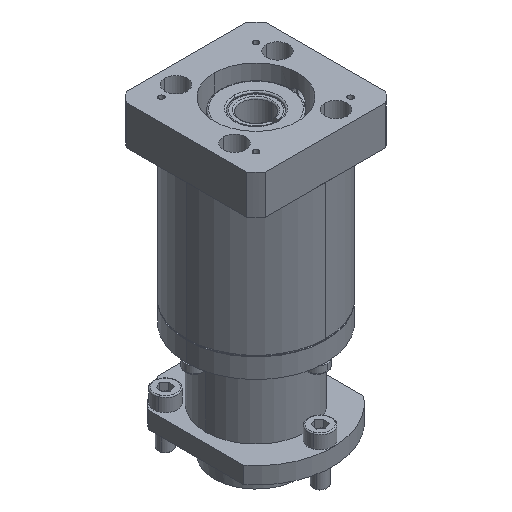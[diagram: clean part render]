
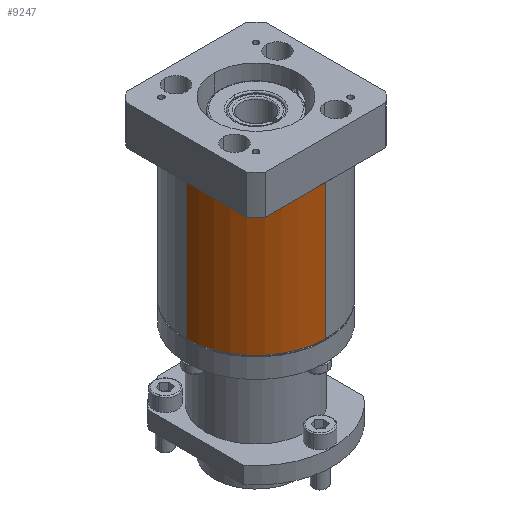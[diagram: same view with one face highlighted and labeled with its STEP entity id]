
A CAD part, isometric view. The second image highlights one B-rep face of the part: STEP entity #9247.
In plain terms, the highlighted cylindrical face has radius 25 mm (diameter 50 mm), a partial arc.
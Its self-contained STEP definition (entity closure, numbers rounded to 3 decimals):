
#436 = EDGE_CURVE ( 'NONE', #11262, #9321, #12147, .T. ) ;
#1629 = CARTESIAN_POINT ( 'NONE',  ( 0., -25., 119.5 ) ) ;
#1720 = ORIENTED_EDGE ( 'NONE', *, *, #12860, .T. ) ;
#1755 = CARTESIAN_POINT ( 'NONE',  ( 0., -25., 71. ) ) ;
#2228 = EDGE_LOOP ( 'NONE', ( #6793, #12146, #1720, #5244 ) ) ;
#2382 = VERTEX_POINT ( 'NONE', #1755 ) ;
#2442 = VECTOR ( 'NONE', #10689, 1000. ) ;
#2497 = CARTESIAN_POINT ( 'NONE',  ( -25., 0., 119.5 ) ) ;
#3768 = CARTESIAN_POINT ( 'NONE',  ( 0., 0., 119.5 ) ) ;
#3810 = CARTESIAN_POINT ( 'NONE',  ( 0., -25., 119.5 ) ) ;
#3999 = CARTESIAN_POINT ( 'NONE',  ( -25., 0., 71. ) ) ;
#4145 = EDGE_CURVE ( 'NONE', #9924, #11262, #9151, .T. ) ;
#4878 = DIRECTION ( 'NONE',  ( 0., 0., -1. ) ) ;
#5244 = ORIENTED_EDGE ( 'NONE', *, *, #11505, .T. ) ;
#5692 = CARTESIAN_POINT ( 'NONE',  ( 0., 0., 71. ) ) ;
#5793 = CARTESIAN_POINT ( 'NONE',  ( -25., 0., 119.5 ) ) ;
#6793 = ORIENTED_EDGE ( 'NONE', *, *, #4145, .T. ) ;
#6995 = DIRECTION ( 'NONE',  ( -1., 0., 0. ) ) ;
#7222 = AXIS2_PLACEMENT_3D ( 'NONE', #3768, #15444, #12856 ) ;
#8722 = VECTOR ( 'NONE', #8911, 1000. ) ;
#8911 = DIRECTION ( 'NONE',  ( 0., 0., -1. ) ) ;
#9151 = CIRCLE ( 'NONE', #16456, 25. ) ;
#9247 = ADVANCED_FACE ( 'NONE', ( #11429 ), #14487, .T. ) ;
#9321 = VERTEX_POINT ( 'NONE', #3999 ) ;
#9924 = VERTEX_POINT ( 'NONE', #3810 ) ;
#10689 = DIRECTION ( 'NONE',  ( 0., 0., 1. ) ) ;
#10899 = CIRCLE ( 'NONE', #12701, 25. ) ;
#11262 = VERTEX_POINT ( 'NONE', #5793 ) ;
#11429 = FACE_OUTER_BOUND ( 'NONE', #2228, .T. ) ;
#11505 = EDGE_CURVE ( 'NONE', #2382, #9924, #12353, .T. ) ;
#12146 = ORIENTED_EDGE ( 'NONE', *, *, #436, .T. ) ;
#12147 = LINE ( 'NONE', #2497, #8722 ) ;
#12353 = LINE ( 'NONE', #1629, #2442 ) ;
#12647 = CARTESIAN_POINT ( 'NONE',  ( 0., 0., 119.5 ) ) ;
#12701 = AXIS2_PLACEMENT_3D ( 'NONE', #5692, #14759, #6995 ) ;
#12856 = DIRECTION ( 'NONE',  ( -1., 0., 0. ) ) ;
#12860 = EDGE_CURVE ( 'NONE', #9321, #2382, #10899, .T. ) ;
#13945 = DIRECTION ( 'NONE',  ( -1., 0., 0. ) ) ;
#14487 = CYLINDRICAL_SURFACE ( 'NONE', #7222, 25. ) ;
#14759 = DIRECTION ( 'NONE',  ( 0., 0., 1. ) ) ;
#15444 = DIRECTION ( 'NONE',  ( 0., 0., -1. ) ) ;
#16456 = AXIS2_PLACEMENT_3D ( 'NONE', #12647, #4878, #13945 ) ;
